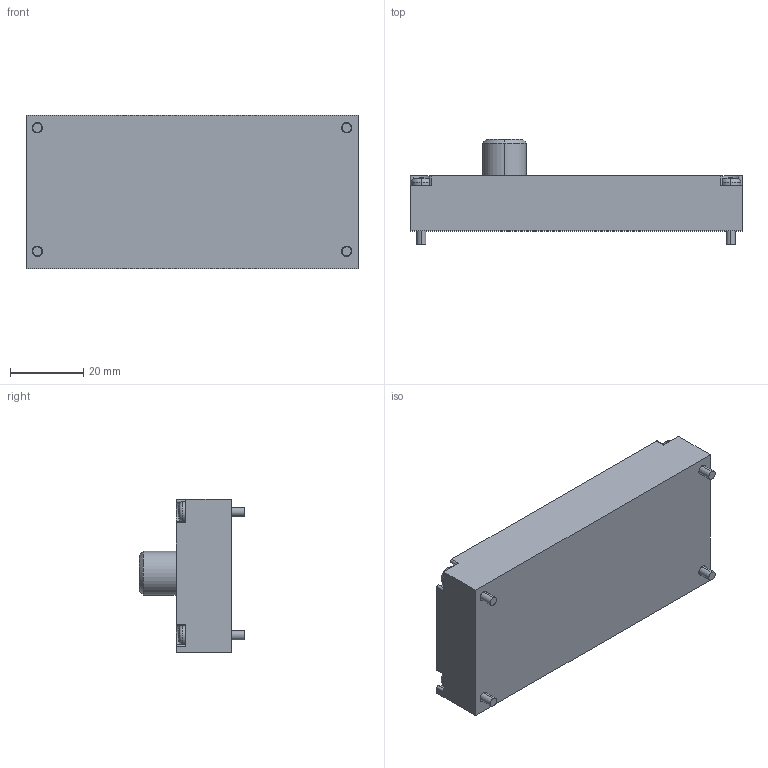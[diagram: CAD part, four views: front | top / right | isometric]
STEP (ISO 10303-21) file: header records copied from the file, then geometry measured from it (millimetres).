
FILE_DESCRIPTION (( 'STEP AP214' ), '1' );
FILE_NAME ('MANÝFOLT.STEP', '2026-07-24T12:14:44', ( '' ), ( '' ), 'SwSTEP 2.0', 'SolidWorks 2023', '' );
FILE_SCHEMA (( 'AUTOMOTIVE_DESIGN' ));
Length unit declared in the file: millimetre
Products named in the file (1): MANİFOLT
Bounding box: 90.5 x 28.7 x 41.85 mm (x, y, z)
Volume: 56510.4 mm3; surface area: 14221.5 mm2
Topology: 1 solids, 1 shells, 226 faces, 570 edges, 377 vertices
Faces by surface type: cylinder 126, plane 78, sphere 10, torus 8, cone 4
Entity records: 7171 total; most frequent: CARTESIAN_POINT 1438, DIRECTION 1310, ORIENTED_EDGE 1140, EDGE_CURVE 570, AXIS2_PLACEMENT_3D 537, VERTEX_POINT 377, CIRCLE 310, EDGE_LOOP 257
